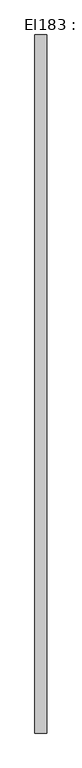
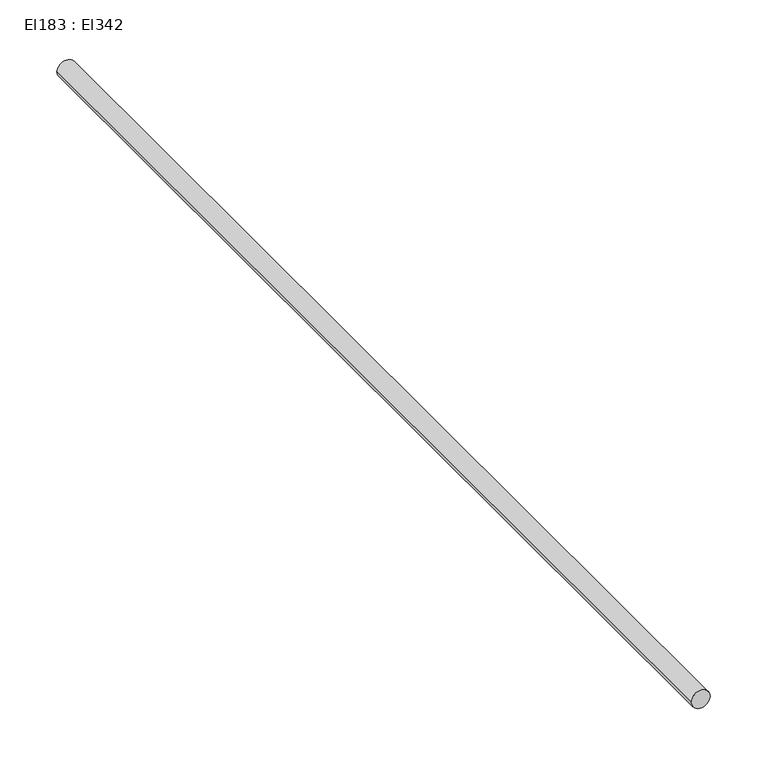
"""IFC4 building model written with IfcOpenShell, lengths in millimetres: cable carrier segment geometry, El183 : El342."""

from ifc_helpers import new_model, si_unit, point, frame, frame_2d, origin, place, context, project, spatial, circle_curve, trimmed, segment, composite_curve, outline, extrude, source, transform, mapped, element, save


def el183_el342_a1bdfb0c(model_context):
    return source(origin(), model_context, "Body", "SweptSolid", [
        extrude(outline(composite_curve([segment(trimmed(circle_curve(frame_2d((1800.0, 5414.4746511)), 9.5), [point((1800.0, 5404.9746511))], [point((1800.0, 5423.9746511))], False, "CARTESIAN"), True, "CONTINUOUS"), segment(trimmed(circle_curve(frame_2d((1800.0, 5414.4746511)), 9.5), [point((1800.0, 5423.9746511))], [point((1800.0, 5404.9746511))], False, "CARTESIAN"), True, "CONTINUOUS")], self_intersect=False)), frame((0.0, 2185.3831745, 0.0), z_axis=(0.0, 1.0, 0.0), x_axis=(0.0, 0.0, 1.0)), (0.0, 0.0, 1.0), 1114.46),
    ])


if __name__ == "__main__":
    model = new_model("IFC4")
    model_context = context("Model", 3, world=origin())
    ifc_project = project(units=[si_unit("LENGTHUNIT", "METRE", prefix="MILLI")], contexts=[model_context])
    site = spatial("IfcSite", under=ifc_project)
    building = spatial("IfcBuilding", under=site)
    placement = place(None, origin())
    el183_el342_shape = el183_el342_a1bdfb0c(model_context)
    element("IfcCableCarrierSegment", 1, ObjectType="El183 : El342", at=placement, inside=building, context=model_context, shape_type="MappedRepresentation", body=[
        mapped(el183_el342_shape, transform((0.0, 0.0, 0.0), x_axis=(1.0, 0.0, 0.0), y_axis=(0.0, 1.0, 0.0), z_axis=(0.0, 0.0, 1.0))),
    ])
    save(model, "model.ifc")
